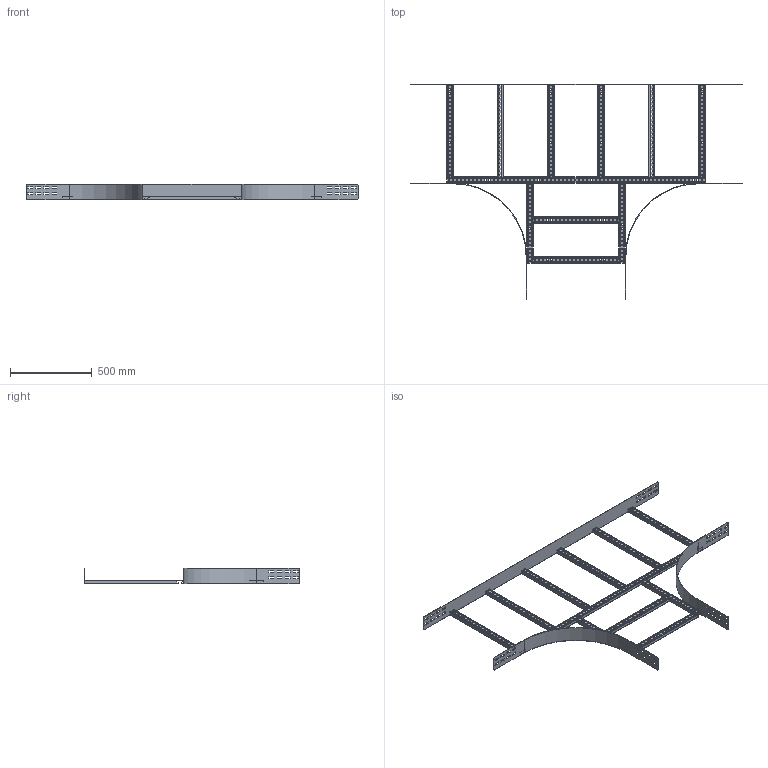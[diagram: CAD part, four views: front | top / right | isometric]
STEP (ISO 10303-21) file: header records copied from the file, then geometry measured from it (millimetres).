
FILE_DESCRIPTION(('Creo Elements/Direct Modeling STEP Export'),'2;1');
FILE_NAME('WPTP10-60-45.stp','2016-06-03T 7:33:30',(''),(''),'PTC Creo Elements/Direct Modeling STEP processor for AP214 (Solid Model)','PTC Creo Elements/Direct Modeling 19.0C 15-Aug-2015 (C) Parametric Technology GmbH','');
FILE_SCHEMA(('AUTOMOTIVE_DESIGN { 1 0 10303 214 1 1 1 1 }'));
Length unit declared in the file: millimetre
Products named in the file (7): WPBI_100; WPKSP2_300.1; WPKSP1-60; WPKS60; WPAAG_100-60; WPTPS60_neu.1.1; WPTP10-60-45
Assembly tree (14 placements, depth 2):
  WPTP10-60-45
    WPTPS60_neu.1.1  x6
    WPKS60  x2
    WPBI_100  x2
    WPKSP2_300.1  x2
    WPAAG_100-60
    WPKSP1-60
Bounding box: 2035 x 1323 x 95 mm (x, y, z)
Volume: 2259811.2 mm3; surface area: 2277653 mm2
Topology: 14 solids, 14 shells, 1822 faces, 5382 edges, 3588 vertices
Faces by surface type: plane 1036, cylinder 786
Entity records: 28534 total; most frequent: CARTESIAN_POINT 4906, ORIENTED_EDGE 4896, DIRECTION 4776, EDGE_CURVE 2448, VECTOR 1772, LINE 1772, VERTEX_POINT 1632, AXIS2_PLACEMENT_3D 1502
